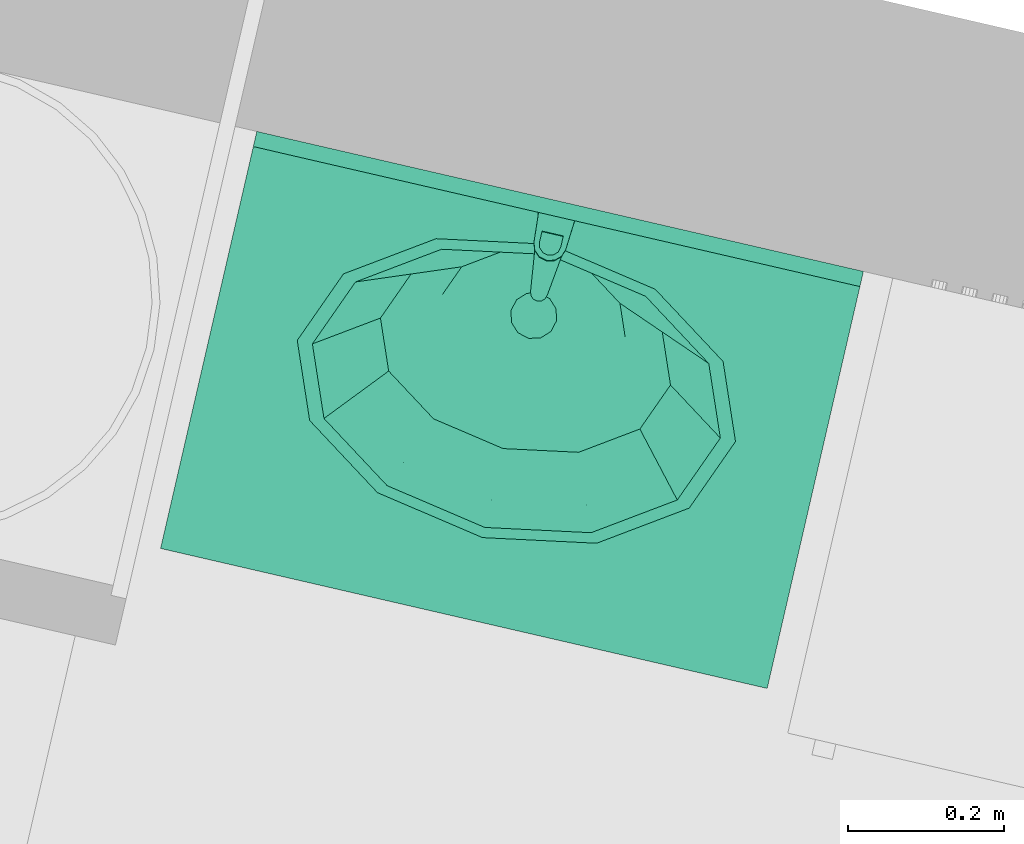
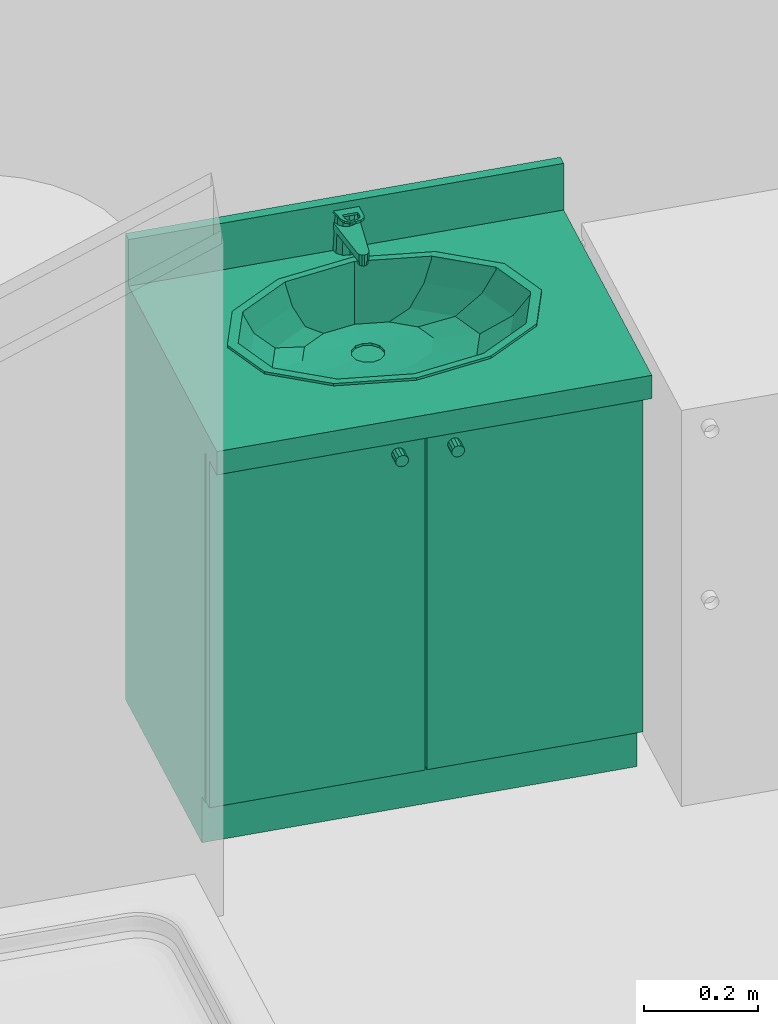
# One storey, part 51 of 62: 1 flow terminal.
"""IFC2X3 building model written with IfcOpenShell, lengths in metres."""

from ifc_helpers import new_model, entity, si_unit, converted_unit, derived_unit, money_unit, direction, frame, origin_with_axes, place, context, subcontext, project, spatial, open_shell, faceted_brep, surface_model, source, transform, mapped, type_object, element, save


model = new_model("IFC2X3")

# Units and contexts
model_context = context("Model", 3, precision=1e-05, world=origin_with_axes(), true_north=direction((0.0, 1.0)))
body_context = subcontext(model_context, "Body", "Model", "MODEL_VIEW")
ifc_project = project(units=[si_unit("LENGTHUNIT", "METRE"), si_unit("AREAUNIT", "SQUARE_METRE"), si_unit("VOLUMEUNIT", "CUBIC_METRE"), converted_unit("PLANEANGLEUNIT", "DEGREE", entity("IfcPlaneAngleMeasure", 0.0174532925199), si_unit("PLANEANGLEUNIT", "RADIAN"), dimensions=[0, 0, 0, 0, 0, 0, 0]), si_unit("SOLIDANGLEUNIT", "STERADIAN"), money_unit("EUR"), converted_unit("TIMEUNIT", "Year", entity("IfcTimeMeasure", 31556926.0), si_unit("TIMEUNIT", "SECOND"), dimensions=[0, 0, 1, 0, 0, 0, 0]), si_unit("MASSUNIT", "GRAM", prefix="KILO"), si_unit("THERMODYNAMICTEMPERATUREUNIT", "DEGREE_CELSIUS"), si_unit("LUMINOUSINTENSITYUNIT", "LUMEN"), si_unit("ENERGYUNIT", "JOULE", prefix="MEGA"), derived_unit("THERMALCONDUCTANCEUNIT", [(si_unit("POWERUNIT", "WATT"), 1), (si_unit("LENGTHUNIT", "METRE"), -1), (si_unit("THERMODYNAMICTEMPERATUREUNIT", "KELVIN"), -1)]), derived_unit("SPECIFICHEATCAPACITYUNIT", [(si_unit("ENERGYUNIT", "JOULE"), 1), (si_unit("MASSUNIT", "GRAM", prefix="KILO"), -1), (si_unit("THERMODYNAMICTEMPERATUREUNIT", "KELVIN"), -1)]), derived_unit("MASSDENSITYUNIT", [(si_unit("MASSUNIT", "GRAM", prefix="KILO"), 1), (si_unit("VOLUMEUNIT", "CUBIC_METRE"), -1)])], contexts=[model_context])

# Site, building, storey
site_placement = place(None, origin_with_axes())
site = spatial("IfcSite", under=ifc_project, at=site_placement, Name="Site", CompositionType="ELEMENT")
building_placement = place(site_placement, origin_with_axes())
building = spatial("IfcBuilding", under=site, at=building_placement, Name="Bâtiment", CompositionType="ELEMENT")
storey_placement = place(building_placement, frame((0.0, 0.0, 8.16), z_axis=(0.0, 0.0, 1.0), x_axis=(1.0, 0.0, 0.0)))
storey = spatial("IfcBuildingStorey", under=building, at=storey_placement, Name="R+3", CompositionType="ELEMENT", Elevation=8.16)

# Flow terminal
sanitary_terminal_type = type_object("IfcSanitaryTerminalType", Name="Lavabo sur meuble 23", PredefinedType="NOTDEFINED")
shared_shape = source(origin_with_axes(), body_context, "Body", "SurfaceModel", [
    faceted_brep([(0.0, 0.09, 0.0), (0.8, 0.09, 0.0), (0.8, 0.09, 0.1), (0.0, 0.09, 0.1), (0.0, 0.55, 0.0), (0.8, 0.55, 0.0), (0.8, 0.55, 0.1), (0.0, 0.55, 0.1)], [[[0, 1, 2, 3]], [[0, 4, 5, 1]], [[1, 5, 6, 2]], [[3, 2, 6, 7]], [[4, 0, 3, 7]], [[5, 4, 7, 6]]]),
    faceted_brep([(0.0, 0.07, 0.1), (0.02, 0.07, 0.1), (0.02, 0.07, 0.12), (0.0, 0.07, 0.12), (0.0, 0.55, 0.1), (0.02, 0.55, 0.1), (0.78, 0.55, 0.1), (0.8, 0.55, 0.1), (0.8, 0.07, 0.1), (0.78, 0.07, 0.1), (0.78, 0.07, 0.12), (0.8, 0.07, 0.12), (0.8, 0.55, 0.12), (0.78, 0.55, 0.12), (0.02, 0.55, 0.12), (0.0, 0.55, 0.12)], [[[0, 1, 2, 3]], [[0, 4, 5, 6, 7, 8, 9, 1]], [[1, 9, 10, 2]], [[3, 2, 10, 11, 12, 13, 14, 15]], [[4, 0, 3, 15]], [[5, 4, 15, 14]], [[6, 5, 14, 13]], [[7, 6, 13, 12]], [[8, 7, 12, 11]], [[9, 8, 11, 10]]]),
    faceted_brep([(0.0, 0.07, 0.12), (0.02, 0.07, 0.12), (0.02, 0.07, 0.85), (0.0, 0.07, 0.85), (0.0, 0.55, 0.12), (0.8, 0.55, 0.12), (0.8, 0.07, 0.12), (0.78, 0.07, 0.12), (0.78, 0.53, 0.12), (0.02, 0.53, 0.12), (0.02, 0.53, 0.85), (0.78, 0.53, 0.85), (0.78, 0.07, 0.85), (0.8, 0.07, 0.85), (0.8, 0.55, 0.85), (0.0, 0.55, 0.85)], [[[0, 1, 2, 3]], [[0, 4, 5, 6, 7, 8, 9, 1]], [[1, 9, 10, 2]], [[3, 2, 10, 11, 12, 13, 14, 15]], [[4, 0, 3, 15]], [[5, 4, 15, 14]], [[6, 5, 14, 13]], [[7, 6, 13, 12]], [[8, 7, 12, 11]], [[9, 8, 11, 10]]]),
    faceted_brep([(0.78, 0.07, 0.323333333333), (0.78, 0.53, 0.323333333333), (0.78, 0.53, 0.343333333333), (0.78, 0.07, 0.343333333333), (0.02, 0.07, 0.323333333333), (0.02, 0.53, 0.323333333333), (0.02, 0.53, 0.343333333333), (0.02, 0.07, 0.343333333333)], [[[0, 1, 2, 3]], [[0, 4, 5, 1]], [[1, 5, 6, 2]], [[3, 2, 6, 7]], [[4, 0, 3, 7]], [[5, 4, 7, 6]]]),
    faceted_brep([(0.78, 0.07, 0.566666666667), (0.78, 0.53, 0.566666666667), (0.78, 0.53, 0.586666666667), (0.78, 0.07, 0.586666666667), (0.02, 0.07, 0.566666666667), (0.02, 0.53, 0.566666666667), (0.02, 0.53, 0.586666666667), (0.02, 0.07, 0.586666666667)], [[[0, 1, 2, 3]], [[0, 4, 5, 1]], [[1, 5, 6, 2]], [[3, 2, 6, 7]], [[4, 0, 3, 7]], [[5, 4, 7, 6]]]),
    faceted_brep([(0.0, 0.55, 0.85), (0.8, 0.55, 0.85), (0.8, 0.0, 0.85), (0.0, 0.0, 0.85), (0.535, 0.144115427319, 0.85), (0.633826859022, 0.21, 0.85), (0.67, 0.3, 0.85), (0.633826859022, 0.39, 0.85), (0.535, 0.455884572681, 0.85), (0.4, 0.48, 0.85), (0.265, 0.455884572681, 0.85), (0.166173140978, 0.39, 0.85), (0.13, 0.3, 0.85), (0.166173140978, 0.21, 0.85), (0.265, 0.144115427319, 0.85), (0.4, 0.12, 0.85), (0.0, 0.55, 0.9), (0.8, 0.55, 0.9), (0.8, 0.0, 0.9), (0.0, 0.0, 0.9), (0.535, 0.144115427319, 0.9), (0.633826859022, 0.21, 0.9), (0.67, 0.3, 0.9), (0.633826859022, 0.39, 0.9), (0.535, 0.455884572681, 0.9), (0.4, 0.48, 0.9), (0.265, 0.455884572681, 0.9), (0.166173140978, 0.39, 0.9), (0.13, 0.3, 0.9), (0.166173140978, 0.21, 0.9), (0.265, 0.144115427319, 0.9), (0.4, 0.12, 0.9)], [[[0, 1, 2, 3], [4, 5, 6, 7, 8, 9, 10, 11, 12, 13, 14, 15]], [[0, 16, 17, 1]], [[1, 17, 18, 2]], [[2, 18, 19, 3]], [[3, 19, 16, 0]], [[20, 21, 5, 4]], [[21, 22, 6, 5]], [[22, 23, 7, 6]], [[23, 24, 8, 7]], [[24, 25, 9, 8]], [[25, 26, 10, 9]], [[26, 27, 11, 10]], [[27, 28, 12, 11]], [[28, 29, 13, 12]], [[29, 30, 14, 13]], [[30, 31, 15, 14]], [[31, 20, 4, 15]], [[18, 17, 16, 19], [24, 23, 22, 21, 20, 31, 30, 29, 28, 27, 26, 25]]]),
    faceted_brep([(0.0, 0.53, 0.9), (0.8, 0.53, 0.9), (0.8, 0.53, 1.0), (0.0, 0.53, 1.0), (0.0, 0.55, 0.9), (0.8, 0.55, 0.9), (0.8, 0.55, 1.0), (0.0, 0.55, 1.0)], [[[0, 1, 2, 3]], [[0, 4, 5, 1]], [[1, 5, 6, 2]], [[3, 2, 6, 7]], [[4, 0, 3, 7]], [[5, 4, 7, 6]]]),
    faceted_brep([(0.689, 0.3, 0.905), (0.689, 0.3, 0.9), (0.650281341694, 0.396691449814, 0.9), (0.650281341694, 0.396691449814, 0.905), (0.650281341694, 0.203308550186, 0.905), (0.650281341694, 0.203308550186, 0.9), (0.5445, 0.132525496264, 0.9), (0.4, 0.106617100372, 0.9), (0.2555, 0.132525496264, 0.9), (0.149718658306, 0.203308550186, 0.9), (0.111, 0.3, 0.9), (0.149718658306, 0.396691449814, 0.9), (0.2555, 0.467474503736, 0.9), (0.4, 0.493382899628, 0.9), (0.5445, 0.467474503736, 0.9), (0.669, 0.3, 0.9), (0.632960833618, 0.39, 0.9), (0.5345, 0.455884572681, 0.9), (0.4, 0.48, 0.9), (0.2655, 0.455884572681, 0.9), (0.167039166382, 0.39, 0.9), (0.131, 0.3, 0.9), (0.167039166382, 0.21, 0.9), (0.2655, 0.144115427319, 0.9), (0.4, 0.12, 0.9), (0.5345, 0.144115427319, 0.9), (0.632960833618, 0.21, 0.9), (0.5445, 0.467474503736, 0.905), (0.4, 0.493382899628, 0.905), (0.2555, 0.467474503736, 0.905), (0.149718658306, 0.396691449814, 0.905), (0.111, 0.3, 0.905), (0.149718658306, 0.203308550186, 0.905), (0.2555, 0.132525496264, 0.905), (0.4, 0.106617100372, 0.905), (0.5445, 0.132525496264, 0.905), (0.669, 0.3, 0.905), (0.632960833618, 0.21, 0.905), (0.5345, 0.144115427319, 0.905), (0.4, 0.12, 0.905), (0.2655, 0.144115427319, 0.905), (0.167039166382, 0.21, 0.905), (0.131, 0.3, 0.905), (0.167039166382, 0.39, 0.905), (0.2655, 0.455884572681, 0.905), (0.4, 0.48, 0.905), (0.5345, 0.455884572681, 0.905), (0.632960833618, 0.39, 0.905)], [[[0, 1, 2, 3]], [[4, 5, 1, 0]], [[1, 5, 6, 7, 8, 9, 10, 11, 12, 13, 14, 2], [15, 16, 17, 18, 19, 20, 21, 22, 23, 24, 25, 26]], [[3, 2, 14, 27]], [[0, 3, 27, 28, 29, 30, 31, 32, 33, 34, 35, 4], [36, 37, 38, 39, 40, 41, 42, 43, 44, 45, 46, 47]], [[35, 6, 5, 4]], [[34, 7, 6, 35]], [[33, 8, 7, 34]], [[32, 9, 8, 33]], [[31, 10, 9, 32]], [[30, 11, 10, 31]], [[29, 12, 11, 30]], [[28, 13, 12, 29]], [[27, 14, 13, 28]], [[47, 16, 15, 36]], [[46, 17, 16, 47]], [[45, 18, 17, 46]], [[44, 19, 18, 45]], [[43, 20, 19, 44]], [[42, 21, 20, 43]], [[41, 22, 21, 42]], [[40, 23, 22, 41]], [[39, 24, 23, 40]], [[38, 25, 24, 39]], [[37, 26, 25, 38]], [[36, 15, 26, 37]]]),
    surface_model("IfcShellBasedSurfaceModel", [(0.4, 0.48, 0.9), (0.4, 0.48, 0.848), (0.52105, 0.458296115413, 0.848), (0.5345, 0.455884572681, 0.9), (0.2655, 0.455884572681, 0.9), (0.27895, 0.458296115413, 0.848), (0.609664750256, 0.399, 0.848), (0.632960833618, 0.39, 0.9), (0.167039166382, 0.39, 0.9), (0.190335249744, 0.399, 0.848), (0.6421, 0.318, 0.848), (0.669, 0.3, 0.9), (0.131, 0.3, 0.9), (0.1579, 0.318, 0.848), (0.609664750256, 0.237, 0.848), (0.632960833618, 0.21, 0.9), (0.167039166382, 0.21, 0.9), (0.190335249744, 0.237, 0.848), (0.52105, 0.177703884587, 0.848), (0.5345, 0.144115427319, 0.9), (0.2655, 0.144115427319, 0.9), (0.27895, 0.177703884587, 0.848), (0.4, 0.156, 0.848), (0.4, 0.12, 0.9)], [open_shell([[[0, 1, 2, 3]], [[4, 5, 1, 0]], [[3, 2, 6, 7]], [[8, 9, 5, 4]], [[7, 6, 10, 11]], [[12, 13, 9, 8]], [[11, 10, 14, 15]], [[16, 17, 13, 12]], [[15, 14, 18, 19]], [[20, 21, 17, 16]], [[19, 18, 22, 23]], [[23, 22, 21, 20]]])]),
    surface_model("IfcShellBasedSurfaceModel", [(0.4, 0.48, 0.848), (0.4, 0.48, 0.796), (0.4956295, 0.462853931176, 0.796), (0.52105, 0.458296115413, 0.848), (0.27895, 0.458296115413, 0.848), (0.3043705, 0.462853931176, 0.796), (0.565635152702, 0.41601, 0.796), (0.609664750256, 0.399, 0.848), (0.190335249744, 0.399, 0.848), (0.234364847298, 0.41601, 0.796), (0.591259, 0.35202, 0.796), (0.6421, 0.318, 0.848), (0.1579, 0.318, 0.848), (0.208741, 0.35202, 0.796), (0.565635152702, 0.28803, 0.796), (0.609664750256, 0.237, 0.848), (0.190335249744, 0.237, 0.848), (0.234364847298, 0.28803, 0.796), (0.4956295, 0.241186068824, 0.796), (0.52105, 0.177703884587, 0.848), (0.27895, 0.177703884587, 0.848), (0.3043705, 0.241186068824, 0.796), (0.4, 0.22404, 0.796), (0.4, 0.156, 0.848)], [open_shell([[[0, 1, 2, 3]], [[4, 5, 1, 0]], [[3, 2, 6, 7]], [[8, 9, 5, 4]], [[7, 6, 10, 11]], [[12, 13, 9, 8]], [[11, 10, 14, 15]], [[16, 17, 13, 12]], [[15, 14, 18, 19]], [[20, 21, 17, 16]], [[19, 18, 22, 23]], [[23, 22, 21, 20]]])]),
    surface_model("IfcShellBasedSurfaceModel", [(0.4, 0.48, 0.796), (0.4, 0.48, 0.77), (0.460246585, 0.469197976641, 0.77), (0.4956295, 0.462853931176, 0.796), (0.3043705, 0.462853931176, 0.796), (0.339753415, 0.469197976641, 0.77), (0.504350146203, 0.4396863, 0.77), (0.565635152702, 0.41601, 0.796), (0.234364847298, 0.41601, 0.796), (0.295649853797, 0.4396863, 0.77), (0.52049317, 0.3993726, 0.77), (0.591259, 0.35202, 0.796), (0.208741, 0.35202, 0.796), (0.27950683, 0.3993726, 0.77), (0.504350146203, 0.3590589, 0.77), (0.565635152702, 0.28803, 0.796), (0.234364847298, 0.28803, 0.796), (0.295649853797, 0.3590589, 0.77), (0.460246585, 0.329547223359, 0.77), (0.4956295, 0.241186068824, 0.796), (0.3043705, 0.241186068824, 0.796), (0.339753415, 0.329547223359, 0.77), (0.4, 0.3187452, 0.77), (0.4, 0.22404, 0.796)], [open_shell([[[0, 1, 2, 3]], [[4, 5, 1, 0]], [[3, 2, 6, 7]], [[8, 9, 5, 4]], [[7, 6, 10, 11]], [[12, 13, 9, 8]], [[11, 10, 14, 15]], [[16, 17, 13, 12]], [[15, 14, 18, 19]], [[20, 21, 17, 16]], [[19, 18, 22, 23]], [[23, 22, 21, 20]]])]),
    surface_model("IfcShellBasedSurfaceModel", [(0.4, 0.48, 0.77), (0.415, 0.425353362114, 0.763), (0.460246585, 0.469197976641, 0.77), (0.4, 0.4293726, 0.763), (0.425980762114, 0.4143726, 0.763), (0.339753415, 0.469197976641, 0.77), (0.504350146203, 0.4396863, 0.77), (0.385, 0.425353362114, 0.763), (0.43, 0.3993726, 0.763), (0.295649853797, 0.4396863, 0.77), (0.52049317, 0.3993726, 0.77), (0.374019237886, 0.4143726, 0.763), (0.425980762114, 0.3843726, 0.763), (0.27950683, 0.3993726, 0.77), (0.504350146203, 0.3590589, 0.77), (0.37, 0.3993726, 0.763), (0.415, 0.373391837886, 0.763), (0.295649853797, 0.3590589, 0.77), (0.460246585, 0.329547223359, 0.77), (0.374019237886, 0.3843726, 0.763), (0.4, 0.3693726, 0.763), (0.339753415, 0.329547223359, 0.77), (0.4, 0.3187452, 0.77), (0.385, 0.373391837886, 0.763)], [open_shell([[[0, 1, 2]], [[0, 3, 1]], [[2, 1, 4]], [[5, 3, 0]], [[2, 4, 6]], [[5, 7, 3]], [[6, 4, 8]], [[9, 7, 5]], [[6, 8, 10]], [[9, 11, 7]], [[10, 8, 12]], [[13, 11, 9]], [[10, 12, 14]], [[13, 15, 11]], [[14, 12, 16]], [[17, 15, 13]], [[14, 16, 18]], [[17, 19, 15]], [[18, 16, 20]], [[21, 19, 17]], [[18, 20, 22]], [[21, 23, 19]], [[22, 20, 23]], [[22, 23, 21]]])]),
    surface_model("IfcShellBasedSurfaceModel", [(0.43, 0.3993726, 0.763), (0.43, 0.3993726, 0.758), (0.425980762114, 0.4143726, 0.758), (0.425980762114, 0.4143726, 0.763), (0.425980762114, 0.3843726, 0.763), (0.425980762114, 0.3843726, 0.758), (0.415, 0.373391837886, 0.758), (0.4, 0.3693726, 0.758), (0.385, 0.373391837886, 0.758), (0.374019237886, 0.3843726, 0.758), (0.37, 0.3993726, 0.758), (0.374019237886, 0.4143726, 0.758), (0.385, 0.425353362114, 0.758), (0.4, 0.4293726, 0.758), (0.415, 0.425353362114, 0.758), (0.415, 0.425353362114, 0.763), (0.415, 0.373391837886, 0.763), (0.4, 0.3693726, 0.763), (0.385, 0.373391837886, 0.763), (0.374019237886, 0.3843726, 0.763), (0.37, 0.3993726, 0.763), (0.374019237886, 0.4143726, 0.763), (0.385, 0.425353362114, 0.763), (0.4, 0.4293726, 0.763)], [open_shell([[[0, 1, 2, 3]], [[4, 5, 1, 0]], [[1, 5, 6, 7, 8, 9, 10, 11, 12, 13, 14, 2]], [[3, 2, 14, 15]], [[16, 6, 5, 4]], [[17, 7, 6, 16]], [[18, 8, 7, 17]], [[19, 9, 8, 18]], [[20, 10, 9, 19]], [[21, 11, 10, 20]], [[22, 12, 11, 21]], [[23, 13, 12, 22]], [[15, 14, 13, 23]]])]),
    faceted_brep([(0.4125, 0.554150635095, 0.9), (0.4, 0.5575, 0.9), (0.4, 0.553701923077, 0.975961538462), (0.410587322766, 0.550837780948, 0.976507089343), (0.421650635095, 0.545, 0.9), (0.425, 0.5325, 0.9), (0.421650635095, 0.52, 0.9), (0.4125, 0.510849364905, 0.9), (0.4, 0.5075, 0.9), (0.3875, 0.510849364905, 0.9), (0.378349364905, 0.52, 0.9), (0.375, 0.5325, 0.9), (0.378349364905, 0.545, 0.9), (0.3875, 0.554150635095, 0.9), (0.389412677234, 0.550837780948, 0.976507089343), (0.381726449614, 0.543050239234, 0.977990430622), (0.379, 0.5325, 0.98), (0.381899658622, 0.522049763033, 0.981990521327), (0.389585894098, 0.514462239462, 0.983435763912), (0.4, 0.511698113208, 0.983962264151), (0.410414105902, 0.514462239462, 0.983435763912), (0.418100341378, 0.522049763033, 0.981990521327), (0.421, 0.5325, 0.98), (0.418273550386, 0.543050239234, 0.977990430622)], [[[0, 1, 2, 3]], [[0, 4, 5, 6, 7, 8, 9, 10, 11, 12, 13, 1]], [[1, 13, 14, 2]], [[3, 2, 14, 15, 16, 17, 18, 19, 20, 21, 22, 23]], [[4, 0, 3, 23]], [[5, 4, 23, 22]], [[6, 5, 22, 21]], [[7, 6, 21, 20]], [[8, 7, 20, 19]], [[9, 8, 19, 18]], [[10, 9, 18, 17]], [[11, 10, 17, 16]], [[12, 11, 16, 15]], [[13, 12, 15, 14]]]),
    faceted_brep([(0.409, 0.4295, 0.935), (0.407794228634, 0.434, 0.935), (0.407794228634, 0.434, 0.945), (0.409, 0.4295, 0.945), (0.407794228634, 0.425, 0.935), (0.4045, 0.421705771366, 0.935), (0.4, 0.4205, 0.935), (0.3955, 0.421705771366, 0.935), (0.392205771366, 0.425, 0.935), (0.391, 0.4295, 0.935), (0.392205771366, 0.434, 0.935), (0.3955, 0.437294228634, 0.935), (0.4, 0.4385, 0.935), (0.4045, 0.437294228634, 0.935), (0.4045, 0.437294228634, 0.945), (0.4, 0.4385, 0.945), (0.3955, 0.437294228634, 0.945), (0.392205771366, 0.434, 0.945), (0.391, 0.4295, 0.945), (0.392205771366, 0.425, 0.945), (0.3955, 0.421705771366, 0.945), (0.4, 0.4205, 0.945), (0.4045, 0.421705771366, 0.945), (0.407794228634, 0.425, 0.945)], [[[0, 1, 2, 3]], [[0, 4, 5, 6, 7, 8, 9, 10, 11, 12, 13, 1]], [[1, 13, 14, 2]], [[3, 2, 14, 15, 16, 17, 18, 19, 20, 21, 22, 23]], [[4, 0, 3, 23]], [[5, 4, 23, 22]], [[6, 5, 22, 21]], [[7, 6, 21, 20]], [[8, 7, 20, 19]], [[9, 8, 19, 18]], [[10, 9, 18, 17]], [[11, 10, 17, 16]], [[12, 11, 16, 15]], [[13, 12, 15, 14]]]),
    faceted_brep([(0.387128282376, 0.552756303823, 0.96), (0.378272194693, 0.54269320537, 0.96), (0.3761946, 0.5294501, 0.96), (0.389088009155, 0.428111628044, 0.96), (0.390971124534, 0.423216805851, 0.96), (0.394906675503, 0.419750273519, 0.96), (0.400000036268, 0.41850003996, 0.96), (0.405093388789, 0.419750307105, 0.96), (0.409028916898, 0.423216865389, 0.96), (0.410912, 0.4281117, 0.96), (0.423805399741, 0.529450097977, 0.96), (0.421727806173, 0.542693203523, 0.96), (0.412871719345, 0.552756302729, 0.96), (0.40000000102, 0.556499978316, 0.96), (0.411, 0.551552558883, 0.96), (0.419052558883, 0.5435, 0.96), (0.422, 0.5325, 0.96), (0.419052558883, 0.5215, 0.96), (0.411, 0.513447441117, 0.96), (0.4, 0.5105, 0.96), (0.389, 0.513447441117, 0.96), (0.380947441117, 0.5215, 0.96), (0.378, 0.5325, 0.96), (0.380947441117, 0.5435, 0.96), (0.389, 0.551552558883, 0.96), (0.4, 0.5545, 0.96), (0.378272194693, 0.54269320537, 0.945), (0.387128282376, 0.552756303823, 0.945), (0.3761946, 0.5294501, 0.945), (0.389088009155, 0.428111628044, 0.945), (0.390971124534, 0.423216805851, 0.945), (0.394906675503, 0.419750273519, 0.945), (0.400000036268, 0.41850003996, 0.945), (0.405093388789, 0.419750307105, 0.945), (0.409028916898, 0.423216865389, 0.945), (0.410912, 0.4281117, 0.945), (0.423805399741, 0.529450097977, 0.945), (0.421727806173, 0.542693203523, 0.945), (0.412871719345, 0.552756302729, 0.945), (0.40000000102, 0.556499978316, 0.945), (0.411375, 0.552202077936, 0.945), (0.419702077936, 0.543875, 0.945), (0.42275, 0.5325, 0.945), (0.419702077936, 0.521125, 0.945), (0.411375, 0.512797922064, 0.945), (0.4, 0.50975, 0.945), (0.388625, 0.512797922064, 0.945), (0.380297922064, 0.521125, 0.945), (0.37725, 0.5325, 0.945), (0.380297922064, 0.543875, 0.945), (0.388625, 0.552202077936, 0.945), (0.4, 0.55525, 0.945)], [[[0, 1, 2, 3, 4, 5, 6, 7, 8, 9, 10, 11, 12, 13], [14, 15, 16, 17, 18, 19, 20, 21, 22, 23, 24, 25]], [[26, 1, 0, 27]], [[28, 2, 1, 26]], [[29, 3, 2, 28]], [[30, 4, 3, 29]], [[31, 5, 4, 30]], [[32, 6, 5, 31]], [[33, 7, 6, 32]], [[34, 8, 7, 33]], [[35, 9, 8, 34]], [[36, 10, 9, 35]], [[37, 11, 10, 36]], [[38, 12, 11, 37]], [[39, 13, 12, 38]], [[27, 0, 13, 39]], [[40, 41, 15, 14]], [[41, 42, 16, 15]], [[42, 43, 17, 16]], [[43, 44, 18, 17]], [[44, 45, 19, 18]], [[20, 19, 45, 46]], [[21, 20, 46, 47]], [[22, 21, 47, 48]], [[23, 22, 48, 49]], [[24, 23, 49, 50]], [[50, 51, 25, 24]], [[51, 40, 14, 25]], [[32, 31, 30, 29, 28, 26, 27, 39, 38, 37, 36, 35, 34, 33], [44, 43, 42, 41, 40, 51, 50, 49, 48, 47, 46, 45]]]),
    faceted_brep([(0.423893, 0.53080743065, 0.980322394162), (0.421296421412, 0.543274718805, 0.977947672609), (0.421296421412, 0.544023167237, 0.981877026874), (0.423893, 0.531555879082, 0.984251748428), (0.420945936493, 0.490663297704, 0.987968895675), (0.417663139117, 0.480985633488, 0.989812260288), (0.410061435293, 0.474036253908, 0.991135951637), (0.399999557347, 0.47151438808, 0.991616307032), (0.389937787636, 0.474036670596, 0.991135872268), (0.382336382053, 0.480986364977, 0.989812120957), (0.379054, 0.490664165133, 0.987968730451), (0.376106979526, 0.530807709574, 0.980322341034), (0.378703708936, 0.543274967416, 0.977947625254), (0.38752831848, 0.552591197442, 0.976173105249), (0.400000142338, 0.556031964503, 0.975517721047), (0.41247192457, 0.552591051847, 0.976173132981), (0.414, 0.506959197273, 0.984864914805), (0.386, 0.506959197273, 0.984864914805), (0.386, 0.492143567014, 0.987686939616), (0.387875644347, 0.485267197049, 0.988996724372), (0.393, 0.480233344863, 0.989955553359), (0.4, 0.478390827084, 0.990306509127), (0.407, 0.480233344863, 0.989955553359), (0.412124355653, 0.485267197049, 0.988996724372), (0.414, 0.492143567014, 0.987686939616), (0.41247192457, 0.553339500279, 0.980102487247), (0.400000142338, 0.556780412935, 0.979447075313), (0.38752831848, 0.553339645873, 0.980102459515), (0.378703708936, 0.544023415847, 0.98187697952), (0.376106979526, 0.531556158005, 0.984251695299), (0.379054, 0.491412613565, 0.991898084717), (0.382336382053, 0.481734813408, 0.993741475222), (0.389937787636, 0.474785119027, 0.995065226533), (0.399999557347, 0.472262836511, 0.995545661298), (0.410061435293, 0.47478470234, 0.995065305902), (0.417663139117, 0.48173408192, 0.993741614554), (0.420945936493, 0.491411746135, 0.991898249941), (0.414, 0.507707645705, 0.988794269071), (0.414, 0.492892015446, 0.991616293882), (0.412124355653, 0.486015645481, 0.992926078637), (0.407, 0.480981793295, 0.993884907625), (0.4, 0.479139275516, 0.994235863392), (0.393, 0.480981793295, 0.993884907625), (0.387875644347, 0.486015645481, 0.992926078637), (0.386, 0.492892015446, 0.991616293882), (0.386, 0.507707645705, 0.988794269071)], [[[0, 1, 2, 3]], [[0, 4, 5, 6, 7, 8, 9, 10, 11, 12, 13, 14, 15, 1], [16, 17, 18, 19, 20, 21, 22, 23, 24]], [[1, 15, 25, 2]], [[3, 2, 25, 26, 27, 28, 29, 30, 31, 32, 33, 34, 35, 36], [37, 38, 39, 40, 41, 42, 43, 44, 45]], [[4, 0, 3, 36]], [[5, 4, 36, 35]], [[6, 5, 35, 34]], [[7, 6, 34, 33]], [[8, 7, 33, 32]], [[9, 8, 32, 31]], [[10, 9, 31, 30]], [[11, 10, 30, 29]], [[12, 11, 29, 28]], [[13, 12, 28, 27]], [[14, 13, 27, 26]], [[15, 14, 26, 25]], [[17, 16, 37, 45]], [[18, 17, 45, 44]], [[19, 18, 44, 43]], [[20, 19, 43, 42]], [[21, 20, 42, 41]], [[22, 21, 41, 40]], [[23, 22, 40, 39]], [[24, 23, 39, 38]], [[16, 24, 38, 37]]]),
    faceted_brep([(0.0015, 0.07, 0.1015), (0.3985, 0.07, 0.1015), (0.3985, 0.05, 0.1015), (0.0015, 0.05, 0.1015), (0.0015, 0.07, 0.8485), (0.3985, 0.07, 0.8485), (0.3985, 0.05, 0.8485), (0.0015, 0.05, 0.8485)], [[[0, 1, 2, 3]], [[0, 4, 5, 1]], [[1, 5, 6, 2]], [[3, 2, 6, 7]], [[4, 0, 3, 7]], [[5, 4, 7, 6]]]),
    faceted_brep([(0.358892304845, 0.05, 0.7855), (0.3545, 0.05, 0.781107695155), (0.3485, 0.05, 0.7795), (0.3425, 0.05, 0.781107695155), (0.338107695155, 0.05, 0.7855), (0.3365, 0.05, 0.7915), (0.338107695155, 0.05, 0.7975), (0.3425, 0.05, 0.801892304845), (0.3485, 0.05, 0.8035), (0.3545, 0.05, 0.801892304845), (0.358892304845, 0.05, 0.7975), (0.3605, 0.05, 0.7915), (0.358892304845, 0.025, 0.7855), (0.3545, 0.025, 0.781107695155), (0.3485, 0.025, 0.7795), (0.3425, 0.025, 0.781107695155), (0.338107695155, 0.025, 0.7855), (0.3365, 0.025, 0.7915), (0.338107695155, 0.025, 0.7975), (0.3425, 0.025, 0.801892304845), (0.3485, 0.025, 0.8035), (0.3545, 0.025, 0.801892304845), (0.358892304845, 0.025, 0.7975), (0.3605, 0.025, 0.7915)], [[[0, 1, 2, 3, 4, 5, 6, 7, 8, 9, 10, 11]], [[1, 0, 12, 13]], [[2, 1, 13, 14]], [[3, 2, 14, 15]], [[4, 3, 15, 16]], [[5, 4, 16, 17]], [[6, 5, 17, 18]], [[7, 6, 18, 19]], [[8, 7, 19, 20]], [[9, 8, 20, 21]], [[10, 9, 21, 22]], [[11, 10, 22, 23]], [[0, 11, 23, 12]], [[12, 23, 22, 21, 20, 19, 18, 17, 16, 15, 14, 13]]]),
    faceted_brep([(0.7985, 0.07, 0.1015), (0.7985, 0.05, 0.1015), (0.4015, 0.05, 0.1015), (0.4015, 0.07, 0.1015), (0.7985, 0.07, 0.8485), (0.7985, 0.05, 0.8485), (0.4015, 0.05, 0.8485), (0.4015, 0.07, 0.8485)], [[[0, 1, 2, 3]], [[4, 5, 1, 0]], [[1, 5, 6, 2]], [[3, 2, 6, 7]], [[0, 3, 7, 4]], [[7, 6, 5, 4]]]),
    faceted_brep([(0.441107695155, 0.05, 0.7855), (0.4395, 0.05, 0.7915), (0.441107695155, 0.05, 0.7975), (0.4455, 0.05, 0.801892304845), (0.4515, 0.05, 0.8035), (0.4575, 0.05, 0.801892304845), (0.461892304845, 0.05, 0.7975), (0.4635, 0.05, 0.7915), (0.461892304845, 0.05, 0.7855), (0.4575, 0.05, 0.781107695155), (0.4515, 0.05, 0.7795), (0.4455, 0.05, 0.781107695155), (0.441107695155, 0.025, 0.7855), (0.4395, 0.025, 0.7915), (0.441107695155, 0.025, 0.7975), (0.4455, 0.025, 0.801892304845), (0.4515, 0.025, 0.8035), (0.4575, 0.025, 0.801892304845), (0.461892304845, 0.025, 0.7975), (0.4635, 0.025, 0.7915), (0.461892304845, 0.025, 0.7855), (0.4575, 0.025, 0.781107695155), (0.4515, 0.025, 0.7795), (0.4455, 0.025, 0.781107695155)], [[[0, 1, 2, 3, 4, 5, 6, 7, 8, 9, 10, 11]], [[0, 12, 13, 1]], [[1, 13, 14, 2]], [[2, 14, 15, 3]], [[3, 15, 16, 4]], [[4, 16, 17, 5]], [[5, 17, 18, 6]], [[6, 18, 19, 7]], [[7, 19, 20, 8]], [[8, 20, 21, 9]], [[9, 21, 22, 10]], [[10, 22, 23, 11]], [[11, 23, 12, 0]], [[12, 23, 22, 21, 20, 19, 18, 17, 16, 15, 14, 13]]]),
])
flow_terminal_placement = place(storey_placement, frame((-9.7959289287, 11.2544189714, 0.0), z_axis=(0.0, 0.0, 1.0), x_axis=(0.974387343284, -0.224876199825, 0.0)))
element("IfcFlowTerminal", 1, at=flow_terminal_placement, inside=storey, type_object=sanitary_terminal_type, Name="MOB-002", ObjectType="SANITARY_TERMINAL", context=body_context, shape_type="MappedRepresentation", body=[
    mapped(shared_shape, transform((0.0, 0.0, 0.0))),
])

save(model, "model.ifc")
